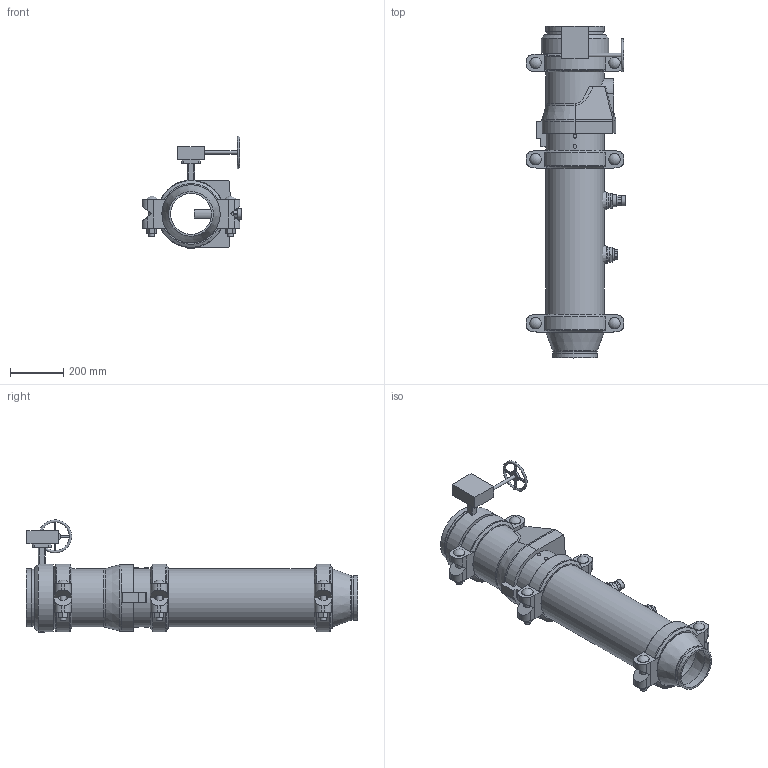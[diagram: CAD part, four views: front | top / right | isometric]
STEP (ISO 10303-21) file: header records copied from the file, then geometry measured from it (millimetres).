
FILE_DESCRIPTION(/* description */ ('VIC DVI PUMP DROP VERT S/380G (OGS)','CAx-IF Rec.Pracs.---Representation and Presentation of Product Manufacturing Information (PMI)---4.0---2014-10-13'),/* implementation_level */ '2;1');
FILE_NAME(/* name */ 'C:\Users\Public\Documents\Victaulic.Temp\A958\Victaulic_IPS_Vertical DVI_Series 380G (OGSxOGS)_08.0x06.0 (200x150).stp',/* time_stamp */ '2022-07-25T12:44:10+02:00',/* author */ ('Vjadhav'),/* organization */ ('Victaulic'),/* preprocessor_version */ 'ST-DEVELOPER v18',/* originating_system */ 'Autodesk Inventor 2020',/* authorisation */ '');
FILE_SCHEMA (('AP242_MANAGED_MODEL_BASED_3D_ENGINEERING_MIM_LF { 1 0 10303 442 1 1 4 }'));
Length unit declared in the file: inch
Products named in the file (8): 380G-08.0x06.0; 050-08.0x06.0; Pipe-08.0; 177N-08.0; 779-08.0; 923-04.0x0.75; 924-04.0x0.75; 761-08.0
Assembly tree (9 placements, depth 2):
  380G-08.0x06.0
    050-08.0x06.0
    177N-08.0  x3
    Pipe-08.0
    779-08.0
    923-04.0x0.75
    924-04.0x0.75
    761-08.0
Bounding box: 376.21 x 1249.43 x 422.39 mm (x, y, z)
Volume: 16025243.6 mm3; surface area: 2551758.6 mm2
Topology: 9 solids, 10 shells, 546 faces, 1457 edges, 972 vertices
Faces by surface type: plane 331, cylinder 168, cone 20, torus 19, sphere 6, bspline 2
Full cylindrical faces by diameter (mm): 8.636 x4, 12.446 x1, 12.7 x1, 13.716 x4, 22.225 x6, 22.86 x1, 26.67 x2, 38.608 x1, 39.125 x1, 42.85 x6, 45.974 x4, 55.118 x1, 55.626 x2, 154.051 x1, 163.957 x1, 168.275 x2, 202.717 x4, 206.375 x3, 214.401 x7, 219.075 x19, 254 x1
Entity records: 12789 total; most frequent: CARTESIAN_POINT 2716, DIRECTION 2061, ORIENTED_EDGE 1910, EDGE_CURVE 955, AXIS2_PLACEMENT_3D 785, VERTEX_POINT 644, LINE 491, VECTOR 491
